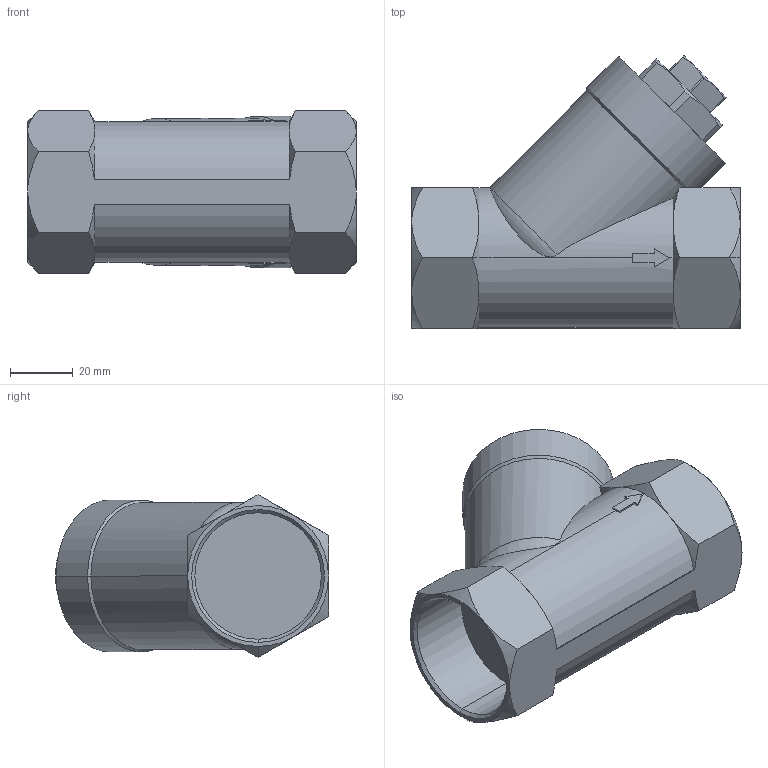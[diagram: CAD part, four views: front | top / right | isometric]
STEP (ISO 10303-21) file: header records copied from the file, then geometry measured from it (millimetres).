
FILE_DESCRIPTION (( 'STEP AP203' ), '1' );
FILE_NAME ('10.000.032.0.STEP', '2018-12-07T12:55:37', ( 'dell2' ), ( 'Microsoft' ), 'SwSTEP 2.0', 'SolidWorks 2017', '' );
FILE_SCHEMA (( 'CONFIG_CONTROL_DESIGN' ));
Length unit declared in the file: millimetre
Products named in the file (1): 10.000.032.0
Bounding box: 105 x 87.22 x 51.96 mm (x, y, z)
Volume: 199756.7 mm3; surface area: 31126.9 mm2
Topology: 1 solids, 1 shells, 119 faces, 290 edges, 177 vertices
Faces by surface type: plane 48, cone 46, cylinder 23, torus 2
Entity records: 4001 total; most frequent: CARTESIAN_POINT 1259, ORIENTED_EDGE 580, DIRECTION 532, EDGE_CURVE 290, AXIS2_PLACEMENT_3D 214, VERTEX_POINT 177, EDGE_LOOP 123, ADVANCED_FACE 119
